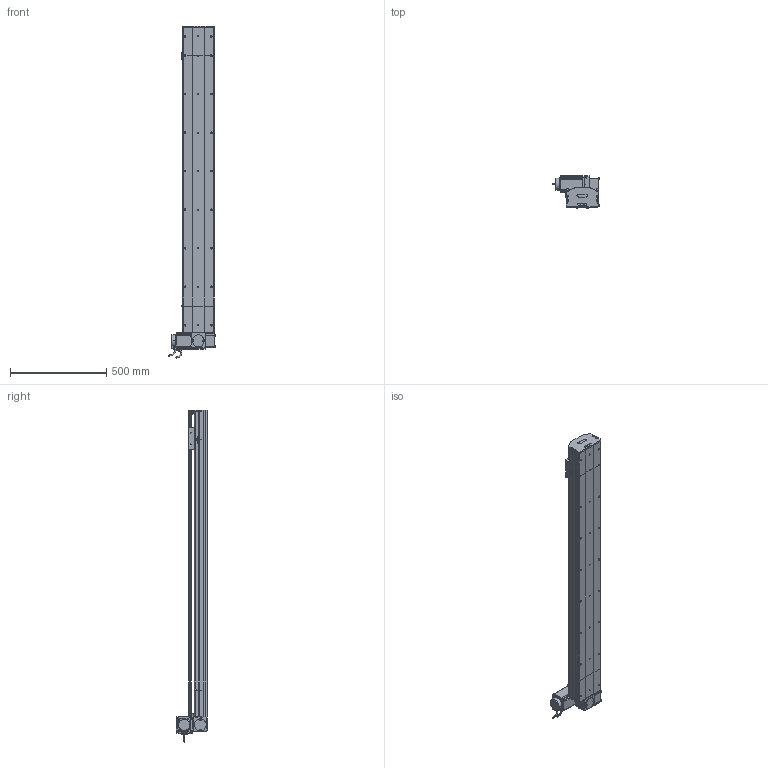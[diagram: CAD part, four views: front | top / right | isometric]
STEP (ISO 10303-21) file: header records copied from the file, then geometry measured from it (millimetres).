
FILE_DESCRIPTION (( 'STEP AP214' ), '1' );
FILE_NAME ('D17 TBN LT S1300.STEP', '2010-06-30T10:49:42', ( 'Christophe Gaillard' ), ( 'SGA' ), 'SwSTEP 2.0', 'SolidWorks 2010', '' );
FILE_SCHEMA (( 'AUTOMOTIVE_DESIGN' ));
Length unit declared in the file: millimetre
Products named in the file (40): course 1300 D17B_Default; D17 TBN LT S1300; corp tail D17B+100_Default; vis M5 L16_Default; Vis M5 L16-2_Default; Rail D17B; Tail D17B+100_Default; poulie tail_Default; tete d''axe poulie D17B; plaque de  bout tail D17B_Default; couvercle D17B_Default; Couroie tail D17B_Default; vis M5 L8 90°_Default; vis M5 L12_Default; chariot D17 TBN; vis M5 L25_Default; guide D17; Chariot D17 TBN; Head LT D17B_Default; corpl head D17 _Default; Renvoi LT_Default; couvercle D17B course L1300_Default; corp D17B 1300_Default; couvercle D17B head_Default; plaque de  bout head D17B LT_Default; vis M5 L5_Default; Arbre+rail head D17B; cache D17_Default; Conecteur2_Default; couroie head D17_Default; poulie head_Default; vis M5 L70_Default; Moteur motionking 90BLDC125A-640; cache arbre D17_Default; avant 90BLDC125A-640; corps 90BLDC125A-640; Conecteur_Default; codeur 90BLDC125-640; Plaque racord D17_Default; Couroie+ rail D17 Course 1300 
Assembly tree (66 placements, depth 4):
  D17 TBN LT S1300
    Head LT D17B_Default
      vis M5 L12_Default  x8
      Vis M5 L16-2_Default  x4
      Renvoi LT_Default
      vis M5 L5_Default  x4
      vis M5 L25_Default  x2
      corpl head D17 _Default
      vis M5 L16_Default  x2
      vis M5 L70_Default  x4
      cache D17_Default  x2
      Moteur motionking 90BLDC125A-640
        codeur 90BLDC125-640
        Conecteur2_Default
        corps 90BLDC125A-640
        avant 90BLDC125A-640
        Conecteur_Default
      cache arbre D17_Default
      plaque de  bout head D17B LT_Default
      couvercle D17B head_Default
      Plaque racord D17_Default
      Arbre+rail head D17B
      couroie head D17_Default
      poulie head_Default
    Tail D17B+100_Default
      vis M5 L25_Default  x2
      poulie tail_Default
      corp tail D17B+100_Default
      tete d''axe poulie D17B
      vis M5 L8 90°_Default  x2
      plaque de  bout tail D17B_Default
      Couroie tail D17B_Default
      vis M5 L12_Default  x4
      couvercle D17B_Default
      Rail D17B
    course 1300 D17B_Default
      Couroie+ rail D17 Course 1300 
      couvercle D17B course L1300_Default
      corp D17B 1300_Default
    chariot D17 TBN
      guide D17  x2
      Chariot D17 TBN
Bounding box: 245.2 x 166.15 x 1723.95 mm (x, y, z)
Volume: 10554334.3 mm3; surface area: 2989962.6 mm2
Topology: 89 solids, 89 shells, 2559 faces, 6491 edges, 4186 vertices
Faces by surface type: plane 1537, cylinder 725, bspline 136, cone 80, torus 77, sphere 4
Entity records: 82581 total; most frequent: CARTESIAN_POINT 24705, ORIENTED_EDGE 10154, DIRECTION 9598, EDGE_CURVE 5077, LINE 3412, VECTOR 3412, VERTEX_POINT 3330, AXIS2_PLACEMENT_3D 3093
